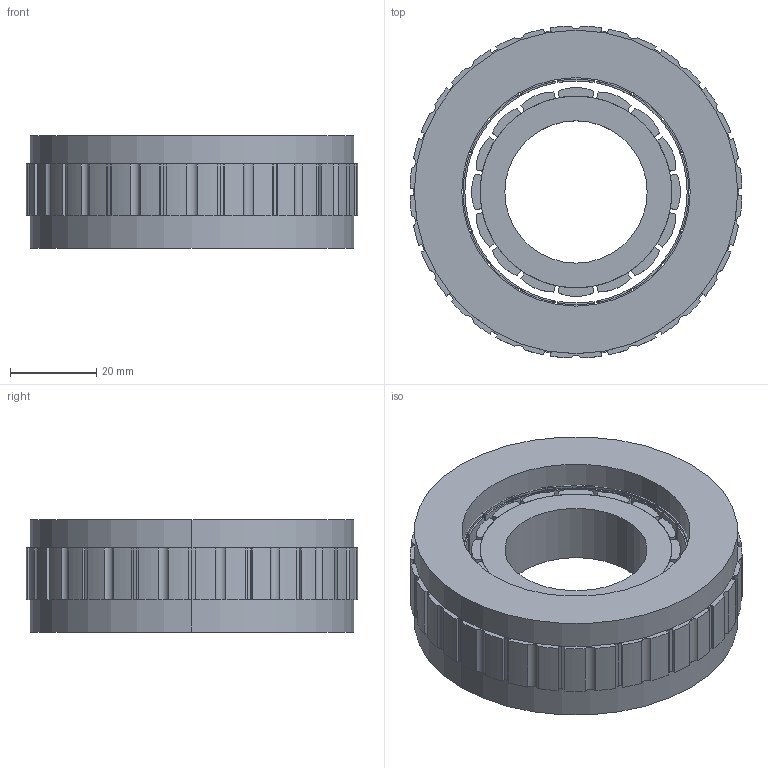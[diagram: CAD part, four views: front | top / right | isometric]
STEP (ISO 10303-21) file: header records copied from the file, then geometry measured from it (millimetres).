
FILE_DESCRIPTION (( 'STEP AP203' ), '1' );
FILE_NAME ('77定子铁芯包胶（发外版）.STEP', '2022-07-28T07:29:24', ( 'muse' ), ( 'muse' ), 'SwSTEP 2.0', 'SolidWorks 2018', '' );
FILE_SCHEMA (( 'CONFIG_CONTROL_DESIGN' ));
Length unit declared in the file: millimetre
Products named in the file (6): 10108060463（464）磁钢 （77L13.5-16P-N40SH-1）V1.0; 蛌赽沺郋; 盄婦; 77定子铁芯包胶（发外版）; 77隅赽沺郋; 77婦蝶
Assembly tree (54 placements, depth 2):
  77定子铁芯包胶（发外版）
    77婦蝶  x18
    77隅赽沺郋  x18
    10108060463（464）磁钢 （77L13.5-16P-N40SH-1）V1.0  x16
    盄婦
    蛌赽沺郋
Bounding box: 76.98 x 76.96 x 26 mm (x, y, z)
Volume: 66200.8 mm3; surface area: 57320.7 mm2
Topology: 55 solids, 55 shells, 1392 faces, 3810 edges, 2492 vertices
Faces by surface type: plane 862, cylinder 530
Entity records: 5133 total; most frequent: DIRECTION 633, CARTESIAN_POINT 561, ORIENTED_EDGE 494, EDGE_CURVE 247, AXIS2_PLACEMENT_3D 234, VECTOR 165, LINE 165, VERTEX_POINT 162
